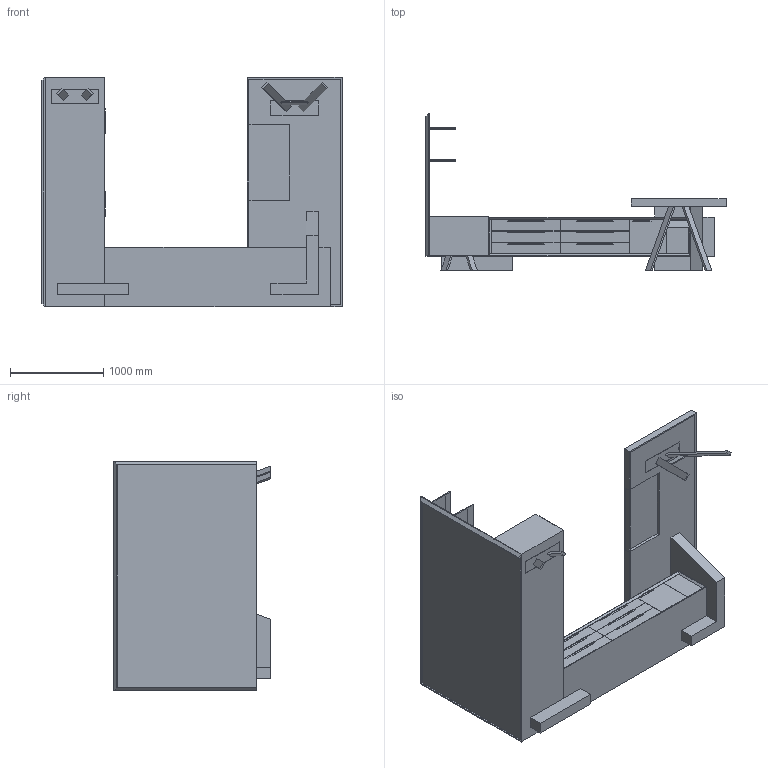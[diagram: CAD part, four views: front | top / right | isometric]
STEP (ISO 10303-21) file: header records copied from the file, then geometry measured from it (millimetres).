
FILE_DESCRIPTION(/* description */ ('','CAx-IF Rec.Pracs.---Representation and Presentation of Product Manufacturing Information (PMI)---4.0---2014-10-13'),/* implementation_level */ '2;1');
FILE_NAME(/* name */ 'DATUM^PO3.stp',/* time_stamp */ '2024-12-05T18:36:55-05:00',/* author */ ('mbowman'),/* organization */ (''),/* preprocessor_version */ 'ST-DEVELOPER v19.2',/* originating_system */ 'Autodesk Inventor 2023',/* authorisation */ '');
FILE_SCHEMA (('AP242_MANAGED_MODEL_BASED_3D_ENGINEERING_MIM_LF { 1 0 10303 442 1 1 4 }'));
Length unit declared in the file: inch
Products named in the file (23): DATUM^OFFICE 3_U-SHAPE-FULL ASSEMBLY; DATUM^OFFICE 3_DESK-SOLID ASSEMBLY; DATUM^OFFICE 3_DESK-PARTS SOLID; DATUM^OFFICE 3_DESK-LEG ASSEMBLY; DATUM^OFFICE 3_DESK-WOOD LEG; DATUM^OFFICE 3_DESK-METAL LEG TOP PLATE; DATUM^OFFICE 3_DESK-METAL LEG CROSS BAR; DATUM^OFFICES_CENTER DRAWER-32in DRAWER FRT; DATUM^OFFICE 3_SIDE CREDENZA-SOLID ASSEMBLY; DATUM^OFFICE 4_SIDE CREDENZA-PARTS SOLID; 2024_04_02_19_08_24_0856; 2024_04_02_19_08_24_0950; 2024_04_02_19_08_24_0934; DATUM^OFFICE 3_BACK CREDENZA-SOLID ASSEMBLY; DATUM^OFFICE 3_BACK CREDENZA-PARTS SOLID; DATUM^OFFICE 3_BACK CREDENZA-LEG ASSEMBLY; DATUM^OFFICE 3_BACK CREDENZA-METAL LEG; DATUM^OFFICE 3_BACK CREDENZA-METAL LEG TOP PLATE; 2024_04_02_19_06_09_0566; 2024_04_02_19_06_09_0661; 2024_04_02_19_06_09_0645; DATUM^OFFICE 3_WALL HUNG-PARTS SOLID; DATUM^OFFICE 3_CREDENZA-BOTTOM RISER
Assembly tree (31 placements, depth 4):
  DATUM^OFFICE 3_U-SHAPE-FULL ASSEMBLY
    DATUM^OFFICE 3_DESK-SOLID ASSEMBLY
      DATUM^OFFICE 3_DESK-PARTS SOLID
      DATUM^OFFICE 3_DESK-LEG ASSEMBLY
        DATUM^OFFICE 3_DESK-WOOD LEG  x2
        DATUM^OFFICE 3_DESK-METAL LEG TOP PLATE
        DATUM^OFFICE 3_DESK-METAL LEG CROSS BAR
      DATUM^OFFICES_CENTER DRAWER-32in DRAWER FRT
    DATUM^OFFICE 3_SIDE CREDENZA-SOLID ASSEMBLY
      DATUM^OFFICE 4_SIDE CREDENZA-PARTS SOLID
      2024_04_02_19_06_09_0566  x6
        2024_04_02_19_06_09_0661
        2024_04_02_19_06_09_0645
      2024_04_02_19_08_24_0856
        2024_04_02_19_08_24_0950
        2024_04_02_19_08_24_0934
    DATUM^OFFICE 3_BACK CREDENZA-SOLID ASSEMBLY
      DATUM^OFFICE 3_BACK CREDENZA-PARTS SOLID
      DATUM^OFFICE 3_BACK CREDENZA-LEG ASSEMBLY
        DATUM^OFFICE 3_BACK CREDENZA-METAL LEG  x2
        DATUM^OFFICE 3_BACK CREDENZA-METAL LEG TOP PLATE
      2024_04_02_19_06_09_0566  x2
        2024_04_02_19_06_09_0661
        2024_04_02_19_06_09_0645
    DATUM^OFFICE 3_WALL HUNG-PARTS SOLID
    DATUM^OFFICE 3_CREDENZA-BOTTOM RISER
Bounding box: 3213.1 x 1676.4 x 2457.45 mm (x, y, z)
Volume: 557051495.4 mm3; surface area: 49586664.6 mm2
Topology: 66 solids, 66 shells, 2573 faces, 5318 edges, 2951 vertices
Faces by surface type: cone 1980, plane 548, cylinder 45
Full cylindrical faces by diameter (mm): 0 x9, 3.5 x36
Entity records: 25297 total; most frequent: CARTESIAN_POINT 4730, DIRECTION 4139, ORIENTED_EDGE 3418, EDGE_CURVE 1709, AXIS2_PLACEMENT_3D 1445, LINE 1249, VECTOR 1249, VERTEX_POINT 1010
